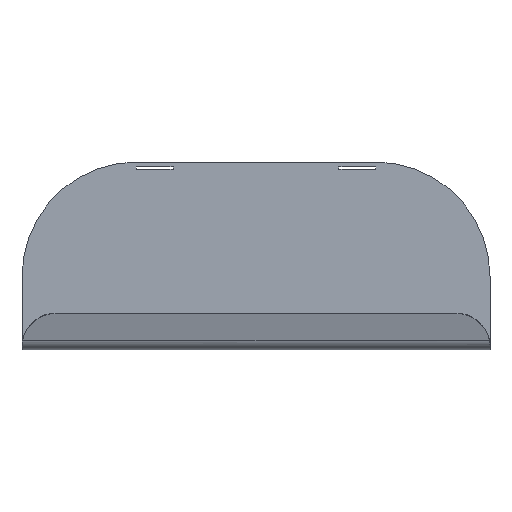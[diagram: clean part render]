
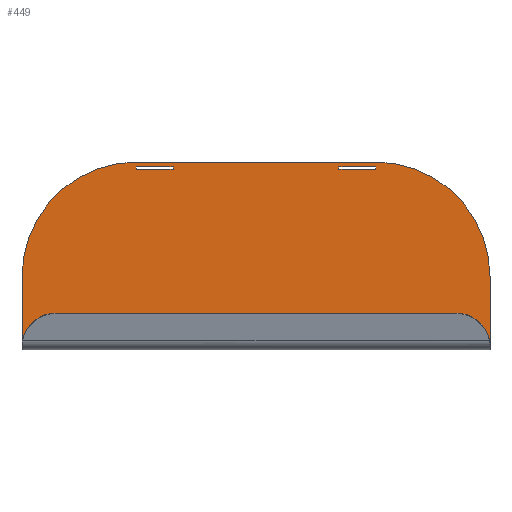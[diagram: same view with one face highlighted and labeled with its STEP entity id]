
A CAD part, top view. The second image highlights one B-rep face of the part: STEP entity #449.
In plain terms, the highlighted planar face has unit normal (0, 0, 1).
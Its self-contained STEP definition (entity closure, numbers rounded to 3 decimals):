
#15 = DIRECTION ( 'NONE',  ( 1., 0., 0. ) ) ;
#17 = LINE ( 'NONE', #333, #298 ) ;
#28 = VERTEX_POINT ( 'NONE', #902 ) ;
#29 = CIRCLE ( 'NONE', #499, 100. ) ;
#30 = EDGE_CURVE ( 'NONE', #264, #174, #129, .T. ) ;
#35 = CARTESIAN_POINT ( 'NONE',  ( 309., 159., 0. ) ) ;
#58 = ORIENTED_EDGE ( 'NONE', *, *, #103, .F. ) ;
#80 = CARTESIAN_POINT ( 'NONE',  ( 100., 159., 0. ) ) ;
#87 = VERTEX_POINT ( 'NONE', #89 ) ;
#88 = ORIENTED_EDGE ( 'NONE', *, *, #712, .T. ) ;
#89 = CARTESIAN_POINT ( 'NONE',  ( 0., 5., 0. ) ) ;
#101 = DIRECTION ( 'NONE',  ( 0., 1., 0. ) ) ;
#103 = EDGE_CURVE ( 'NONE', #510, #472, #243, .T. ) ;
#104 = EDGE_CURVE ( 'NONE', #174, #791, #940, .T. ) ;
#106 = FACE_OUTER_BOUND ( 'NONE', #583, .T. ) ;
#108 = VECTOR ( 'NONE', #916, 1000. ) ;
#112 = DIRECTION ( 'NONE',  ( -1., 0., 0. ) ) ;
#115 = DIRECTION ( 'NONE',  ( 0., 0., -1. ) ) ;
#120 = LINE ( 'NONE', #655, #961 ) ;
#129 = LINE ( 'NONE', #748, #267 ) ;
#135 = LINE ( 'NONE', #969, #108 ) ;
#139 = VECTOR ( 'NONE', #955, 1000. ) ;
#143 = LINE ( 'NONE', #686, #150 ) ;
#148 = CARTESIAN_POINT ( 'NONE',  ( 409., 5., 0. ) ) ;
#150 = VECTOR ( 'NONE', #922, 1000. ) ;
#166 = DIRECTION ( 'NONE',  ( 0., 0., 1. ) ) ;
#174 = VERTEX_POINT ( 'NONE', #990 ) ;
#181 = CARTESIAN_POINT ( 'NONE',  ( 100., 159., 0. ) ) ;
#185 = LINE ( 'NONE', #400, #186 ) ;
#186 = VECTOR ( 'NONE', #704, 1000. ) ;
#189 = EDGE_LOOP ( 'NONE', ( #425, #938, #344, #405 ) ) ;
#197 = ORIENTED_EDGE ( 'NONE', *, *, #287, .T. ) ;
#208 = EDGE_CURVE ( 'NONE', #979, #421, #29, .T. ) ;
#243 = LINE ( 'NONE', #402, #750 ) ;
#244 = CARTESIAN_POINT ( 'NONE',  ( 277., 159., 0. ) ) ;
#246 = VERTEX_POINT ( 'NONE', #840 ) ;
#252 = EDGE_CURVE ( 'NONE', #290, #979, #143, .T. ) ;
#262 = PLANE ( 'NONE',  #319 ) ;
#264 = VERTEX_POINT ( 'NONE', #80 ) ;
#265 = DIRECTION ( 'NONE',  ( -1., 0., 0. ) ) ;
#267 = VECTOR ( 'NONE', #368, 1000. ) ;
#269 = VERTEX_POINT ( 'NONE', #997 ) ;
#287 = EDGE_CURVE ( 'NONE', #269, #246, #700, .T. ) ;
#290 = VERTEX_POINT ( 'NONE', #148 ) ;
#296 = DIRECTION ( 'NONE',  ( 1., 0., 0. ) ) ;
#298 = VECTOR ( 'NONE', #651, 1000. ) ;
#301 = CARTESIAN_POINT ( 'NONE',  ( 0., 0., 0. ) ) ;
#312 = VECTOR ( 'NONE', #15, 1000. ) ;
#318 = VECTOR ( 'NONE', #807, 1000. ) ;
#319 = AXIS2_PLACEMENT_3D ( 'NONE', #413, #115, #265 ) ;
#333 = CARTESIAN_POINT ( 'NONE',  ( 277., 159., 0. ) ) ;
#340 = LINE ( 'NONE', #801, #318 ) ;
#344 = ORIENTED_EDGE ( 'NONE', *, *, #428, .F. ) ;
#356 = FACE_BOUND ( 'NONE', #189, .T. ) ;
#357 = VECTOR ( 'NONE', #832, 1000. ) ;
#368 = DIRECTION ( 'NONE',  ( 0., -1., 0. ) ) ;
#395 = VERTEX_POINT ( 'NONE', #244 ) ;
#400 = CARTESIAN_POINT ( 'NONE',  ( 100., 163., 0. ) ) ;
#402 = CARTESIAN_POINT ( 'NONE',  ( 309., 159., 0. ) ) ;
#404 = CARTESIAN_POINT ( 'NONE',  ( 409., 5., 0. ) ) ;
#405 = ORIENTED_EDGE ( 'NONE', *, *, #908, .F. ) ;
#413 = CARTESIAN_POINT ( 'NONE',  ( 100., 63., 0. ) ) ;
#421 = VERTEX_POINT ( 'NONE', #642 ) ;
#425 = ORIENTED_EDGE ( 'NONE', *, *, #104, .F. ) ;
#428 = EDGE_CURVE ( 'NONE', #28, #264, #947, .T. ) ;
#436 = ORIENTED_EDGE ( 'NONE', *, *, #898, .T. ) ;
#449 = ADVANCED_FACE ( 'NONE', ( #356, #649, #106 ), #262, .F. ) ;
#465 = CARTESIAN_POINT ( 'NONE',  ( 132., 156.5, 0. ) ) ;
#472 = VERTEX_POINT ( 'NONE', #35 ) ;
#480 = CARTESIAN_POINT ( 'NONE',  ( 309., 156.5, 0. ) ) ;
#499 = AXIS2_PLACEMENT_3D ( 'NONE', #675, #982, #296 ) ;
#510 = VERTEX_POINT ( 'NONE', #480 ) ;
#515 = ORIENTED_EDGE ( 'NONE', *, *, #966, .F. ) ;
#521 = VERTEX_POINT ( 'NONE', #593 ) ;
#522 = LINE ( 'NONE', #301, #357 ) ;
#550 = EDGE_CURVE ( 'NONE', #472, #395, #120, .T. ) ;
#551 = ORIENTED_EDGE ( 'NONE', *, *, #208, .T. ) ;
#582 = EDGE_CURVE ( 'NONE', #521, #510, #135, .T. ) ;
#583 = EDGE_LOOP ( 'NONE', ( #722, #761, #551, #436, #197, #88 ) ) ;
#593 = CARTESIAN_POINT ( 'NONE',  ( 277., 156.5, 0. ) ) ;
#631 = CARTESIAN_POINT ( 'NONE',  ( 409., 63., 0. ) ) ;
#642 = CARTESIAN_POINT ( 'NONE',  ( 309., 163., 0. ) ) ;
#649 = FACE_BOUND ( 'NONE', #965, .T. ) ;
#651 = DIRECTION ( 'NONE',  ( 0., -1., 0. ) ) ;
#655 = CARTESIAN_POINT ( 'NONE',  ( 309., 159., 0. ) ) ;
#675 = CARTESIAN_POINT ( 'NONE',  ( 309., 63., 0. ) ) ;
#686 = CARTESIAN_POINT ( 'NONE',  ( 409., 0., 0. ) ) ;
#690 = CARTESIAN_POINT ( 'NONE',  ( 100., 63., 0. ) ) ;
#700 = CIRCLE ( 'NONE', #852, 100. ) ;
#704 = DIRECTION ( 'NONE',  ( -1., 0., 0. ) ) ;
#712 = EDGE_CURVE ( 'NONE', #246, #87, #522, .T. ) ;
#722 = ORIENTED_EDGE ( 'NONE', *, *, #913, .F. ) ;
#748 = CARTESIAN_POINT ( 'NONE',  ( 100., 159., 0. ) ) ;
#750 = VECTOR ( 'NONE', #101, 1000. ) ;
#761 = ORIENTED_EDGE ( 'NONE', *, *, #252, .T. ) ;
#784 = ORIENTED_EDGE ( 'NONE', *, *, #582, .F. ) ;
#791 = VERTEX_POINT ( 'NONE', #465 ) ;
#801 = CARTESIAN_POINT ( 'NONE',  ( 132., 159., 0. ) ) ;
#807 = DIRECTION ( 'NONE',  ( 0., 1., 0. ) ) ;
#832 = DIRECTION ( 'NONE',  ( 0., -1., 0. ) ) ;
#840 = CARTESIAN_POINT ( 'NONE',  ( 0., 63., 0. ) ) ;
#852 = AXIS2_PLACEMENT_3D ( 'NONE', #690, #166, #991 ) ;
#864 = CARTESIAN_POINT ( 'NONE',  ( 100., 156.5, 0. ) ) ;
#884 = VECTOR ( 'NONE', #112, 1000. ) ;
#898 = EDGE_CURVE ( 'NONE', #421, #269, #185, .T. ) ;
#902 = CARTESIAN_POINT ( 'NONE',  ( 132., 159., 0. ) ) ;
#903 = DIRECTION ( 'NONE',  ( -1., 0., 0. ) ) ;
#908 = EDGE_CURVE ( 'NONE', #791, #28, #340, .T. ) ;
#913 = EDGE_CURVE ( 'NONE', #290, #87, #956, .T. ) ;
#916 = DIRECTION ( 'NONE',  ( 1., 0., 0. ) ) ;
#922 = DIRECTION ( 'NONE',  ( 0., 1., 0. ) ) ;
#938 = ORIENTED_EDGE ( 'NONE', *, *, #30, .F. ) ;
#940 = LINE ( 'NONE', #864, #312 ) ;
#947 = LINE ( 'NONE', #181, #139 ) ;
#951 = ORIENTED_EDGE ( 'NONE', *, *, #550, .F. ) ;
#955 = DIRECTION ( 'NONE',  ( -1., 0., 0. ) ) ;
#956 = LINE ( 'NONE', #404, #884 ) ;
#961 = VECTOR ( 'NONE', #903, 1000. ) ;
#965 = EDGE_LOOP ( 'NONE', ( #515, #951, #58, #784 ) ) ;
#966 = EDGE_CURVE ( 'NONE', #395, #521, #17, .T. ) ;
#969 = CARTESIAN_POINT ( 'NONE',  ( 309., 156.5, 0. ) ) ;
#979 = VERTEX_POINT ( 'NONE', #631 ) ;
#982 = DIRECTION ( 'NONE',  ( 0., 0., 1. ) ) ;
#990 = CARTESIAN_POINT ( 'NONE',  ( 100., 156.5, 0. ) ) ;
#991 = DIRECTION ( 'NONE',  ( -1., 0., 0. ) ) ;
#997 = CARTESIAN_POINT ( 'NONE',  ( 100., 163., 0. ) ) ;
